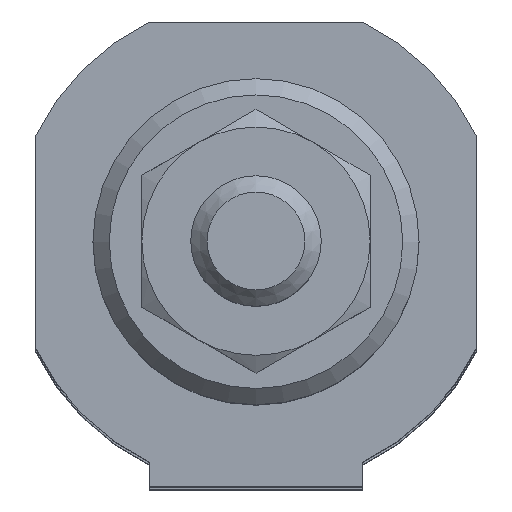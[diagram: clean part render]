
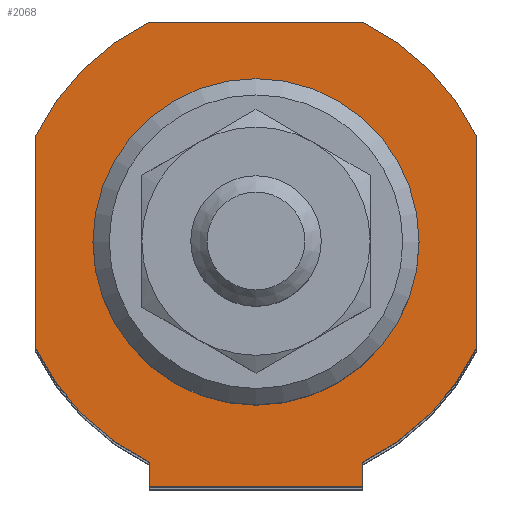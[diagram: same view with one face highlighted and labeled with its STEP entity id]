
A CAD part, top view. The second image highlights one B-rep face of the part: STEP entity #2068.
In plain terms, the highlighted planar face has unit normal (0, 0, 1).
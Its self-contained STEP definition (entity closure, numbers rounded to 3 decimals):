
#1123=CARTESIAN_POINT('',(6.538,-15.0,134.));
#1124=VERTEX_POINT('',#1123);
#1125=CARTESIAN_POINT('',(-6.538,-15.0,134.));
#1126=VERTEX_POINT('',#1125);
#1127=CARTESIAN_POINT('',(6.538,-15.0,134.));
#1128=DIRECTION('',(-1.0,0.0,0.0));
#1129=VECTOR('',#1128,13.077);
#1130=LINE('',#1127,#1129);
#1131=EDGE_CURVE('',#1124,#1126,#1130,.T.);
#1420=CARTESIAN_POINT('',(-6.538,-13.5,134.));
#1421=VERTEX_POINT('',#1420);
#1435=CARTESIAN_POINT('',(-6.538,-13.5,134.));
#1436=DIRECTION('',(0.0,-1.0,0.0));
#1437=VECTOR('',#1436,1.5);
#1438=LINE('',#1435,#1437);
#1439=EDGE_CURVE('',#1421,#1126,#1438,.T.);
#1451=CARTESIAN_POINT('',(6.538,-13.5,134.));
#1452=VERTEX_POINT('',#1451);
#1459=CARTESIAN_POINT('',(6.538,-13.5,134.));
#1460=DIRECTION('',(0.0,-1.0,0.0));
#1461=VECTOR('',#1460,1.5);
#1462=LINE('',#1459,#1461);
#1463=EDGE_CURVE('',#1452,#1124,#1462,.T.);
#1788=CARTESIAN_POINT('',(10.0,0.,134.));
#1789=VERTEX_POINT('',#1788);
#1790=CARTESIAN_POINT('',(0.,0.,134.));
#1791=DIRECTION('',(0.0,0.0,-1.0));
#1792=DIRECTION('',(-1.0,0.0,0.0));
#1793=AXIS2_PLACEMENT_3D('',#1790,#1791,#1792);
#1794=CIRCLE('',#1793,10.0);
#1795=EDGE_CURVE('',#1789,#1789,#1794,.T.);
#1888=CARTESIAN_POINT('',(6.538,13.5,134.));
#1889=VERTEX_POINT('',#1888);
#1890=CARTESIAN_POINT('',(13.5,6.538,134.));
#1891=VERTEX_POINT('',#1890);
#1892=CARTESIAN_POINT('',(0.0,0.0,134.0));
#1893=DIRECTION('',(0.0,0.0,-1.));
#1894=DIRECTION('',(-0.9,-0.436,0.0));
#1895=AXIS2_PLACEMENT_3D('',#1892,#1893,#1894);
#1896=CIRCLE('',#1895,15.);
#1897=EDGE_CURVE('',#1889,#1891,#1896,.T.);
#1920=CARTESIAN_POINT('',(13.5,-6.538,134.));
#1921=VERTEX_POINT('',#1920);
#1922=CARTESIAN_POINT('',(13.5,6.538,134.));
#1923=DIRECTION('',(0.0,-1.0,0.0));
#1924=VECTOR('',#1923,13.077);
#1925=LINE('',#1922,#1924);
#1926=EDGE_CURVE('',#1891,#1921,#1925,.T.);
#1944=CARTESIAN_POINT('',(0.0,0.0,134.0));
#1945=DIRECTION('',(0.0,0.0,-1.));
#1946=DIRECTION('',(-0.436,0.9,0.0));
#1947=AXIS2_PLACEMENT_3D('',#1944,#1945,#1946);
#1948=CIRCLE('',#1947,15.);
#1949=EDGE_CURVE('',#1921,#1452,#1948,.T.);
#1962=CARTESIAN_POINT('',(-13.5,-6.538,134.));
#1963=VERTEX_POINT('',#1962);
#1964=CARTESIAN_POINT('',(0.0,0.0,134.0));
#1965=DIRECTION('',(0.0,0.0,-1.));
#1966=DIRECTION('',(0.9,0.436,0.0));
#1967=AXIS2_PLACEMENT_3D('',#1964,#1965,#1966);
#1968=CIRCLE('',#1967,15.);
#1969=EDGE_CURVE('',#1421,#1963,#1968,.T.);
#1987=CARTESIAN_POINT('',(-13.5,6.538,134.));
#1988=VERTEX_POINT('',#1987);
#1989=CARTESIAN_POINT('',(-13.5,-6.538,134.));
#1990=DIRECTION('',(0.0,1.0,0.0));
#1991=VECTOR('',#1990,13.077);
#1992=LINE('',#1989,#1991);
#1993=EDGE_CURVE('',#1963,#1988,#1992,.T.);
#2011=CARTESIAN_POINT('',(-6.538,13.5,134.));
#2012=VERTEX_POINT('',#2011);
#2013=CARTESIAN_POINT('',(0.0,0.0,134.0));
#2014=DIRECTION('',(0.0,0.0,-1.));
#2015=DIRECTION('',(0.436,-0.9,0.0));
#2016=AXIS2_PLACEMENT_3D('',#2013,#2014,#2015);
#2017=CIRCLE('',#2016,15.);
#2018=EDGE_CURVE('',#1988,#2012,#2017,.T.);
#2036=CARTESIAN_POINT('',(-6.538,13.5,134.));
#2037=DIRECTION('',(1.0,0.0,0.0));
#2038=VECTOR('',#2037,13.077);
#2039=LINE('',#2036,#2038);
#2040=EDGE_CURVE('',#2012,#1889,#2039,.T.);
#2048=CARTESIAN_POINT('',(0.,0.0,134.));
#2049=DIRECTION('',(0.0,0.0,1.0));
#2050=DIRECTION('',(1.0,0.0,0.0));
#2051=AXIS2_PLACEMENT_3D('',#2048,#2049,#2050);
#2052=PLANE('',#2051);
#2053=ORIENTED_EDGE('',*,*,#1897,.F.);
#2054=ORIENTED_EDGE('',*,*,#2040,.F.);
#2055=ORIENTED_EDGE('',*,*,#2018,.F.);
#2056=ORIENTED_EDGE('',*,*,#1993,.F.);
#2057=ORIENTED_EDGE('',*,*,#1969,.F.);
#2058=ORIENTED_EDGE('',*,*,#1439,.T.);
#2059=ORIENTED_EDGE('',*,*,#1131,.F.);
#2060=ORIENTED_EDGE('',*,*,#1463,.F.);
#2061=ORIENTED_EDGE('',*,*,#1949,.F.);
#2062=ORIENTED_EDGE('',*,*,#1926,.F.);
#2063=EDGE_LOOP('',(#2053,#2054,#2055,#2056,#2057,#2058,#2059,#2060,#2061,#2062));
#2064=FACE_OUTER_BOUND('',#2063,.T.);
#2065=ORIENTED_EDGE('',*,*,#1795,.T.);
#2066=EDGE_LOOP('',(#2065));
#2067=FACE_BOUND('',#2066,.T.);
#2068=ADVANCED_FACE('',(#2064,#2067),#2052,.T.);
